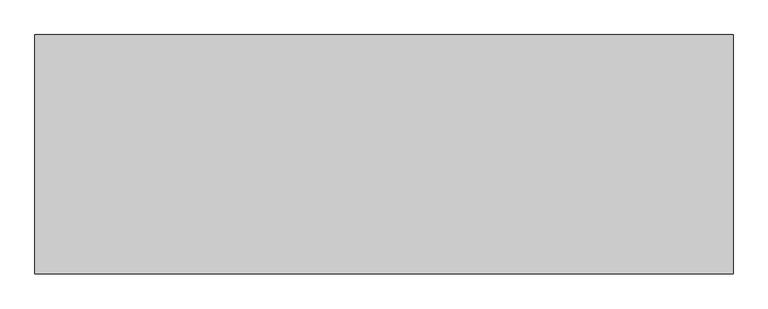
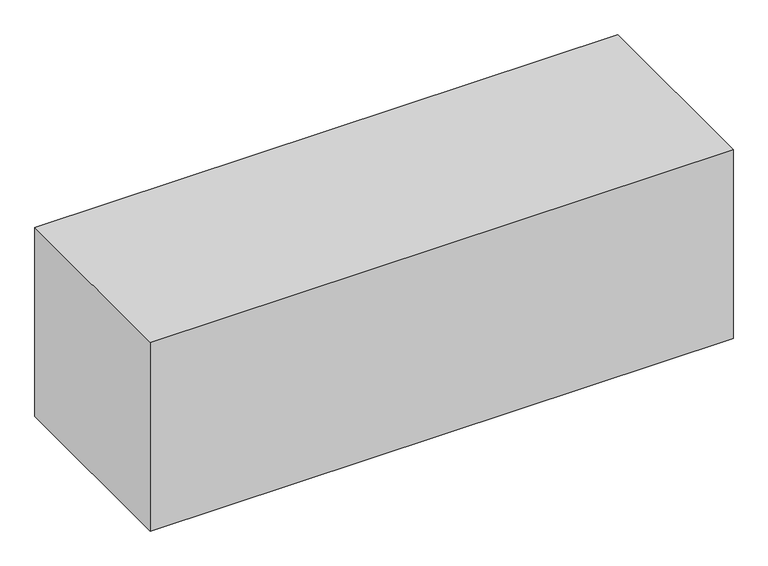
"""IFC4 building model written with IfcOpenShell, lengths in millimetres: furniture geometry, Fu_шкаф 1-с : Шкаф 1-створчатый."""

from ifc_helpers import new_model, si_unit, origin, origin_with_axes, place, context, project, spatial, polyline, outline, extrude, source, transform, mapped, element, save


def furniture_1670b5ab(model_context):
    return source(origin(), model_context, "Body", "SweptSolid", [
        extrude(outline(polyline([(1750.0, 0.0), (0.0, 0.0), (0.0, 600.0), (1750.0, 600.0), (1750.0, 0.0)])), origin_with_axes(), (0.0, 0.0, 1.0), 600.0),
    ])


if __name__ == "__main__":
    model = new_model("IFC4")
    model_context = context("Model", 3, world=origin())
    ifc_project = project(units=[si_unit("LENGTHUNIT", "METRE", prefix="MILLI")], contexts=[model_context])
    site = spatial("IfcSite", under=ifc_project)
    building = spatial("IfcBuilding", under=site)
    placement = place(None, origin())
    furniture_shape = furniture_1670b5ab(model_context)
    element("IfcFurniture", 1, ObjectType="Fu_шкаф 1-с : Шкаф 1-створчатый", at=placement, inside=building, context=model_context, shape_type="MappedRepresentation", body=[
        mapped(furniture_shape, transform((0.0, 0.0, 0.0), x_axis=(1.0, 0.0, 0.0), y_axis=(0.0, 1.0, 0.0), z_axis=(0.0, 0.0, 1.0))),
    ])
    save(model, "model.ifc")
